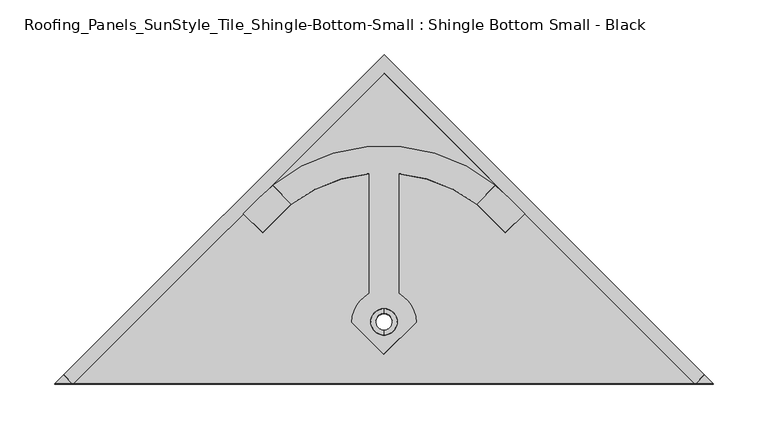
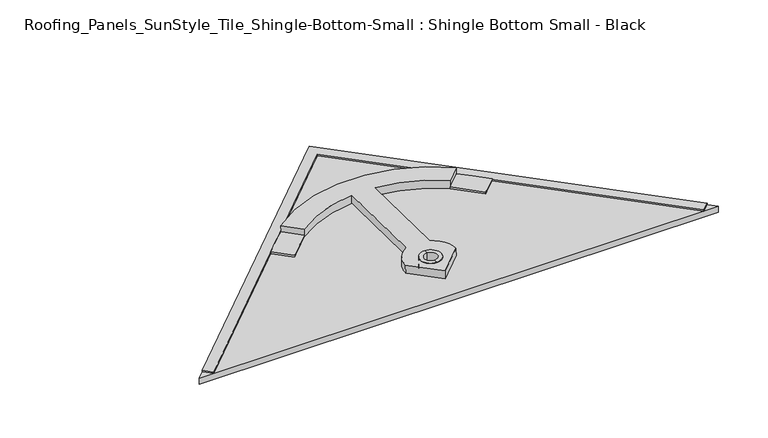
"""IFC4 building model written with IfcOpenShell, lengths in millimetres: proxy geometry, Roofing_Panels_SunStyle_Tile_Shingle-Bottom-Small : Shingle Bottom Small - Black."""

from ifc_helpers import new_model, si_unit, point, frame, frame_2d, origin, place, context, project, spatial, polyline, circle_curve, trimmed, segment, composite_curve, outline, extrude, source, transform, mapped, element, save
from ifc_brep_helpers import plane_surface, cylinder_surface, revolved_surface, advanced_brep


def roofing_panels_sunstyle_tile_shingle_bottom_small_shingle_761d3557(model_context):
    return source(origin(), model_context, "Body", "SolidModel", [
        advanced_brep(
        [(0.0, 376.6586646, 20.2441668), (0.0, 391.9914655, 19.9873805), (0.0, 396.4908342, 19.9120273), (0.0, 372.159296, 20.31952), (0.0, 376.3907424, 4.2464102), (0.0, 391.7235425, 3.9896239), (0.0, 371.8913733, 4.3217634), (0.0, 396.2229116, 3.9142707)],
        [
            (0, 1, circle_curve(frame((0.0, 384.3250651, 20.1157737), z_axis=(0.0, -0.016745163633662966, -0.9998597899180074), x_axis=(0.0, 0.9998597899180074, -0.016745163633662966)), 7.6674755)),
            (1, 2),
            (2, 3, circle_curve(frame((0.0, 384.3250651, 20.1157737), z_axis=(0.0, 0.016745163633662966, 0.9998597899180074), x_axis=(0.0, 0.9998597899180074, -0.016745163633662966)), 12.1674751)),
            (3, 0),
            (1, 0, circle_curve(frame((0.0, 384.3250651, 20.1157737), z_axis=(0.0, -0.016745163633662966, -0.9998597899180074), x_axis=(0.0, 0.9998597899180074, -0.016745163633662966)), 7.6674755)),
            (3, 2, circle_curve(frame((0.0, 384.3250651, 20.1157737), z_axis=(0.0, 0.016745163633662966, 0.9998597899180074), x_axis=(0.0, 0.9998597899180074, -0.016745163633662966)), 12.1674751)),
            (4, 5, circle_curve(frame((0.0, 384.0571425, 4.118017), z_axis=(0.0, -0.016745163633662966, -0.9998597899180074), x_axis=(0.0, 0.9998597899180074, -0.016745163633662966)), 7.6674751)),
            (5, 1),
            (0, 4),
            (5, 4, circle_curve(frame((0.0, 384.0571425, 4.118017), z_axis=(0.0, -0.016745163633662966, -0.9998597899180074), x_axis=(0.0, 0.9998597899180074, -0.016745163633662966)), 7.6674751)),
            (6, 7, circle_curve(frame((0.0, 384.0571425, 4.118017), z_axis=(0.0, -0.016745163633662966, -0.9998597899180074), x_axis=(0.0, 0.9998597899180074, -0.016745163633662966)), 12.1674751)),
            (7, 5),
            (4, 6),
            (7, 6, circle_curve(frame((0.0, 384.0571425, 4.118017), z_axis=(0.0, -0.016745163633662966, -0.9998597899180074), x_axis=(0.0, 0.9998597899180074, -0.016745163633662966)), 12.1674751)),
            (2, 7),
            (6, 3),
        ],
        [
            plane_surface(frame((0.0, 384.3250651, 20.1157737), z_axis=(0.0, 0.016745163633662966, 0.9998597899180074), x_axis=(0.0, 0.9998597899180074, -0.016745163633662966))),
            revolved_surface(polyline([(0.0, 391.99146514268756, 19.987380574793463), (0.0, 391.7235425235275, 3.989623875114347)]), (0.0, 384.3250651, 20.1157737), (0.0, 0.016745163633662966, 0.9998597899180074)),
            plane_surface(frame((0.0, 384.0571425, 4.118017), z_axis=(0.0, -0.016745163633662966, -0.9998597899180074), x_axis=(0.0, 0.9998597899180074, -0.016745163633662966))),
            cylinder_surface(frame((0.0, 384.3250651, 20.1157737), z_axis=(0.0, 0.016745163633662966, 0.9998597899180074), x_axis=(0.0, 0.9998597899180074, -0.016745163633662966)), 12.1674751),
        ],
        [
            (0, [[1, 2, 3, 4]]),
            (0, [[5, -4, 6, -2]]),
            (1, [[7, 8, -1, 9]]),
            (1, [[10, -9, -5, -8]]),
            (2, [[11, 12, -7, 13]]),
            (2, [[14, -13, -10, -12]]),
            (3, [[-3, 15, -11, 16]]),
            (3, [[-6, -16, -14, -15]]),
        ],
    ),
        extrude(outline(polyline([(-1e-07, -12.0), (0.0, 0.0), (403.4038676, 0.0), (403.4604329, 403.4038637), (415.4604327, 403.402181), (415.4021851, -12.0), (-1e-07, -12.0)])), frame((285.269931, 327.2499642, 10.8230016), z_axis=(0.0, 0.016745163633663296, 0.9998597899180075), x_axis=(-0.7071563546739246, 0.706958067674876, -0.011839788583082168)), (0.0, 0.0, 1.0), 1.5),
        extrude(outline(polyline([(995.0941908, 0.0), (995.154091, -427.1880546), (567.906132, 0.0), (995.0941908, 0.0)]), holes=[composite_curve([segment(trimmed(circle_curve(frame_2d((821.5432582, -173.5748135)), 12.0), [point((813.0573819, -165.090127))], [point((830.0291345, -182.0594999))], True, "CARTESIAN"), True, "CONTINUOUS"), segment(trimmed(circle_curve(frame_2d((821.5432582, -173.5748135)), 12.0), [point((830.0291345, -182.0594999))], [point((813.0573819, -165.090127))], True, "CARTESIAN"), True, "CONTINUOUS")], self_intersect=False)]), frame((-703.686858, -74.2088783, 10.0453866), z_axis=(0.0, 0.01674516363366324, 0.9998597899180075), x_axis=(0.7071563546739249, 0.7069580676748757, -0.011839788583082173)), (0.0, 0.0, 1.0), 7.5),
        advanced_brep(
        [(-102.0275718, 509.4233468, 17.773453), (-84.944396, 492.3425663, 18.0595136), (-13.3, 520.2344765, 17.5923935), (-13.3, 410.3575937, 19.4325579), (-29.3894281, 384.153474, 19.8714117), (0.0, 354.7681667, 20.3635425), (29.3894281, 384.153474, 19.8714117), (13.3, 410.3575937, 19.4325579), (13.3, 520.2344765, 17.5923935), (84.944396, 492.3425663, 18.0595136), (102.0275718, 509.4233468, 17.773453), (-12.0, 384.153474, 19.8714117), (12.0, 384.153474, 19.8714117), (-102.0275718, 509.2558952, 7.7748551), (102.0275718, 509.2558952, 7.7748551), (114.2509691, 498.2209723, 7.9596626), (128.9467134, 483.5293487, 8.2057108), (111.2690438, 465.8541578, 8.5017262), (84.9431983, 492.1763122, 8.0608957), (13.3, 520.0670248, 7.5937956), (13.3, 410.1901421, 9.43396), (29.3894281, 383.9860224, 9.8728138), (0.0, 354.600715, 10.3649446), (-29.3894281, 383.9860224, 9.8728138), (-13.3, 410.1901421, 9.43396), (-13.3, 520.0670248, 7.5937956), (-84.944396, 492.1751147, 8.0609157), (-111.2690438, 465.8541578, 8.5017262), (-128.9467134, 483.5293487, 8.2057108), (-114.2509691, 498.2209723, 7.9596626), (-12.0, 383.9860224, 9.8728138), (12.0, 383.9860224, 9.8728138), (102.0275718, 509.2977581, 10.2745046), (-102.0275718, 509.2977581, 10.2745046), (128.9467134, 483.5712117, 10.7053603), (114.2509691, 498.2628352, 10.4593121), (84.944396, 492.2169776, 10.5605652), (111.2690438, 465.8960207, 11.0013757), (-128.9467134, 483.5712117, 10.7053603), (-111.2690438, 465.8960207, 11.0013757), (-84.9431983, 492.2181751, 10.5605451), (-114.2509691, 498.2628352, 10.4593121)],
        [
            (0, 1),
            (1, 2, circle_curve(frame((0.0, 380.1464478, 19.9385194), z_axis=(0.0, -0.01674516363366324, -0.9998597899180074), x_axis=(1.0, 0.0, 0.0)), 140.737522)),
            (2, 3),
            (3, 4, circle_curve(frame((0.0, 384.153474, 19.8714117), z_axis=(0.0, 0.01674516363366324, 0.9998597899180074), x_axis=(1.0, 0.0, 0.0)), 29.3894281)),
            (4, 5),
            (5, 6),
            (6, 7, circle_curve(frame((0.0, 384.153474, 19.8714117), z_axis=(0.0, 0.01674516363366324, 0.9998597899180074), x_axis=(1.0, 0.0, 0.0)), 29.3894281)),
            (7, 8),
            (8, 9, circle_curve(frame((0.0, 380.1464478, 19.9385194), z_axis=(0.0, -0.01674516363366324, -0.9998597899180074), x_axis=(1.0, 0.0, 0.0)), 140.737522)),
            (9, 10),
            (10, 0, circle_curve(frame((0.0, 384.153474, 19.8714117), z_axis=(0.0, 0.01674516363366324, 0.9998597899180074), x_axis=(1.0, 0.0, 0.0)), 161.57527)),
            (11, 12, circle_curve(frame((0.0, 384.153474, 19.8714117), z_axis=(0.0, -0.01674516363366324, -0.9998597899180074), x_axis=(1.0, 0.0, 0.0)), 12.0)),
            (12, 11, circle_curve(frame((0.0, 384.153474, 19.8714117), z_axis=(0.0, -0.01674516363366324, -0.9998597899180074), x_axis=(1.0, 0.0, 0.0)), 12.0)),
            (13, 14, circle_curve(frame((0.0, 383.9860224, 9.8728138), z_axis=(0.0, -0.01674516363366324, -0.9998597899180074), x_axis=(1.0, 0.0, 0.0)), 161.57527)),
            (14, 15, circle_curve(frame((0.0, 383.9860224, 9.8728138), z_axis=(0.0, -0.01674516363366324, -0.9998597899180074), x_axis=(1.0, 0.0, 0.0)), 161.57527)),
            (15, 16),
            (16, 17),
            (17, 18),
            (18, 19, circle_curve(frame((0.0, 379.9789961, 9.9399215), z_axis=(0.0, 0.01674516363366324, 0.9998597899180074), x_axis=(1.0, 0.0, 0.0)), 140.737522)),
            (19, 20),
            (20, 21, circle_curve(frame((0.0, 383.9860224, 9.8728138), z_axis=(0.0, -0.01674516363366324, -0.9998597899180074), x_axis=(1.0, 0.0, 0.0)), 29.3894281)),
            (21, 22),
            (22, 23),
            (23, 24, circle_curve(frame((0.0, 383.9860224, 9.8728138), z_axis=(0.0, -0.01674516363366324, -0.9998597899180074), x_axis=(1.0, 0.0, 0.0)), 29.3894281)),
            (24, 25),
            (25, 26, circle_curve(frame((0.0, 379.9789961, 9.9399215), z_axis=(0.0, 0.01674516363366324, 0.9998597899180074), x_axis=(1.0, 0.0, 0.0)), 140.737522)),
            (26, 27),
            (27, 28),
            (28, 29),
            (29, 13, circle_curve(frame((0.0, 383.9860224, 9.8728138), z_axis=(0.0, -0.01674516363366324, -0.9998597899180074), x_axis=(-1.0, 0.0, 0.0)), 161.57527)),
            (30, 31, circle_curve(frame((0.0, 383.9860224, 9.8728138), z_axis=(0.0, 0.01674516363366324, 0.9998597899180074), x_axis=(1.0, 0.0, 0.0)), 12.0)),
            (31, 30, circle_curve(frame((0.0, 383.9860224, 9.8728138), z_axis=(0.0, 0.01674516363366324, 0.9998597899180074), x_axis=(1.0, 0.0, 0.0)), 12.0)),
            (2, 25),
            (24, 3),
            (23, 4),
            (22, 5),
            (21, 6),
            (20, 7),
            (19, 8),
            (10, 32),
            (32, 14),
            (13, 33),
            (33, 0),
            (11, 30),
            (31, 12),
            (34, 35),
            (35, 32, circle_curve(frame((0.0, 384.0278853, 12.3724633), z_axis=(0.0, 0.01674516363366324, 0.9998597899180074), x_axis=(1.0, 0.0, 0.0)), 161.57527)),
            (32, 36),
            (36, 37),
            (37, 34),
            (38, 39),
            (39, 40),
            (40, 33),
            (33, 41, circle_curve(frame((0.0, 384.0278853, 12.3724633), z_axis=(0.0, 0.01674516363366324, 0.9998597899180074), x_axis=(-1.0, 0.0, 0.0)), 161.57527)),
            (41, 38),
            (34, 16),
            (15, 35),
            (37, 17),
            (36, 18),
            (38, 28),
            (27, 39),
            (26, 40),
            (29, 41),
            (40, 1),
            (9, 36),
        ],
        [
            plane_surface(frame((-102.0275718, 509.4233468, 17.773453), z_axis=(0.0, 0.01674516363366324, 0.9998597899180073), x_axis=(0.7071067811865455, -0.7070076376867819, 0.011840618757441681))),
            plane_surface(frame((-102.0275718, 509.2558952, 7.7748551), z_axis=(0.0, -0.01674516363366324, -0.9998597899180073), x_axis=(-0.7071067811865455, 0.7070076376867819, -0.011840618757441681))),
            plane_surface(frame((-13.3, 520.2344765, 17.5923935), z_axis=(-1.0000000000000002, 0.0, 0.0), x_axis=(0.0, -0.016745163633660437, -0.9998597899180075))),
            cylinder_surface(frame((0.0, 383.9860224, 9.8728138), z_axis=(0.0, 0.01674516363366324, 0.9998597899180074), x_axis=(1.0, 0.0, 0.0)), 29.3894281),
            plane_surface(frame((-29.3894281, 384.153474, 19.8714117), z_axis=(-0.7071067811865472, -0.7070076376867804, 0.011840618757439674), x_axis=(0.0, -0.01674516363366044, -0.9998597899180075))),
            plane_surface(frame((0.0, 354.7681667, 20.3635425), z_axis=(0.7071067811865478, -0.7070076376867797, 0.011840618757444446), x_axis=(0.0, -0.016745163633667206, -0.9998597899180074))),
            plane_surface(frame((13.3, 410.3575937, 19.4325579), z_axis=(1.0000000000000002, 0.0, 0.0), x_axis=(0.0, -0.016745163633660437, -0.9998597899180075))),
            cylinder_surface(frame((0.0, 383.9860224, 9.8728138), z_axis=(0.0, 0.01674516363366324, 0.9998597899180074), x_axis=(1.0, 0.0, 0.0)), 161.57527),
            revolved_surface(polyline([(12.0, 383.9860224, 9.8728138), (12.0, 384.1534740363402, 19.871411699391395)]), (0.0, 383.9860224, 9.8728138), (0.0, -0.01674516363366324, -0.9998597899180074)),
            plane_surface(frame((128.9467134, 483.5712117, 10.7053603), z_axis=(0.0, 0.01674516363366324, 0.9998597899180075), x_axis=(-0.7071563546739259, 0.7069580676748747, -0.011839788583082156))),
            plane_surface(frame((128.9467134, 483.5712117, 10.7053603), z_axis=(0.7070572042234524, 0.7070572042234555, -0.011841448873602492), x_axis=(0.0, -0.016745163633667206, -0.9998597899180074))),
            plane_surface(frame((111.2690438, 465.8960207, 11.0013757), z_axis=(0.7071067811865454, -0.7070076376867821, 0.011840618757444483), x_axis=(0.0, -0.0167451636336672, -0.9998597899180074))),
            plane_surface(frame((84.9431983, 492.2181751, 10.5605451), z_axis=(-0.7071067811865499, -0.7070076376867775, 0.011840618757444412), x_axis=(0.0, -0.016745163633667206, -0.9998597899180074))),
            plane_surface(frame((-128.9467134, 483.5712117, 10.7053603), z_axis=(-0.7071067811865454, -0.7070076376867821, 0.011840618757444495), x_axis=(0.0, -0.016745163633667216, -0.9998597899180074))),
            plane_surface(frame((-111.2690438, 465.8960207, 11.0013757), z_axis=(0.7071067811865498, -0.7070076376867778, 0.011840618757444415), x_axis=(0.0, -0.016745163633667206, -0.9998597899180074))),
            cylinder_surface(frame((0.0, 383.9860224, 9.8728138), z_axis=(0.0, 0.01674516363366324, 0.9998597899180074), x_axis=(-1.0, 0.0, 0.0)), 161.57527),
            plane_surface(frame((-114.2509691, 498.2628352, 10.4593121), z_axis=(-0.7070572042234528, 0.7070572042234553, -0.011841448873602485), x_axis=(0.0, -0.0167451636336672, -0.9998597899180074))),
            plane_surface(frame((-102.0275718, 509.4233468, 17.773453), z_axis=(-0.7071067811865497, -0.7070076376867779, 0.01184061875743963), x_axis=(0.0, -0.01674516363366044, -0.9998597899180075))),
            plane_surface(frame((84.944396, 492.3425663, 18.0595136), z_axis=(0.7071067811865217, -0.7070076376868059, 0.011840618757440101), x_axis=(0.0, -0.01674516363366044, -0.9998597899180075))),
            revolved_surface(polyline([(140.737522, 379.9789961, 9.9399215), (140.737522, 380.14644773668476, 19.938519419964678)]), (0.0, 379.9789961, 9.9399215), (0.0, -0.01674516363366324, -0.9998597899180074)),
        ],
        [
            (0, [[1, 2, 3, 4, 5, 6, 7, 8, 9, 10, 11], [12, 13]]),
            (1, [[14, 15, 16, 17, 18, 19, 20, 21, 22, 23, 24, 25, 26, 27, 28, 29, 30], [31, 32]]),
            (2, [[-3, 33, -25, 34]]),
            (3, [[-4, -34, -24, 35]]),
            (4, [[-5, -35, -23, 36]]),
            (5, [[-6, -36, -22, 37]]),
            (3, [[-7, -37, -21, 38]]),
            (6, [[-8, -38, -20, 39]]),
            (7, [[-11, 40, 41, -14, 42, 43]]),
            (8, [[-12, 44, -32, 45]]),
            (8, [[-13, -45, -31, -44]]),
            (9, [[46, 47, 48, 49, 50]]),
            (9, [[51, 52, 53, 54, 55]]),
            (10, [[-46, 56, -16, 57]]),
            (11, [[-50, 58, -17, -56]]),
            (7, [[-47, -57, -15, -41]]),
            (12, [[-49, 59, -18, -58]]),
            (13, [[-51, 60, -28, 61]]),
            (14, [[-52, -61, -27, 62]]),
            (15, [[-54, -42, -30, 63]]),
            (16, [[-55, -63, -29, -60]]),
            (17, [[-1, -43, -53, 64]]),
            (18, [[-10, 65, -48, -40]]),
            (19, [[-2, -64, -62, -26, -33]]),
            (19, [[-9, -39, -19, -59, -65]]),
        ],
    ),
    ])


if __name__ == "__main__":
    model = new_model("IFC4")
    model_context = context("Model", 3, world=origin())
    ifc_project = project(units=[si_unit("LENGTHUNIT", "METRE", prefix="MILLI")], contexts=[model_context])
    site = spatial("IfcSite", under=ifc_project)
    building = spatial("IfcBuilding", under=site)
    placement = place(None, origin())
    roofing_panels_sunstyle_tile_shingle_bottom_small_shingle_shape = roofing_panels_sunstyle_tile_shingle_bottom_small_shingle_761d3557(model_context)
    element("IfcBuildingElementProxy", 1, Name="Roofing_Panels_SunStyle_Tile_Shingle-Bottom-Small : Shingle Bottom Small - Black", ObjectType="Roofing_Panels_SunStyle_Tile_Shingle-Bottom-Small : Shingle Bottom Small - Black", at=placement, inside=building, context=model_context, shape_type="MappedRepresentation", body=[
        mapped(roofing_panels_sunstyle_tile_shingle_bottom_small_shingle_shape, transform((0.0, 0.0, 0.0), x_axis=(1.0, 0.0, 0.0), y_axis=(0.0, 1.0, 0.0), z_axis=(0.0, 0.0, 1.0))),
    ])
    save(model, "model.ifc")
